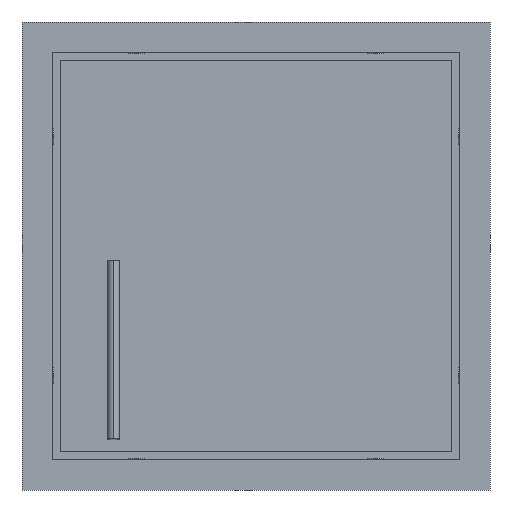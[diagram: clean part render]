
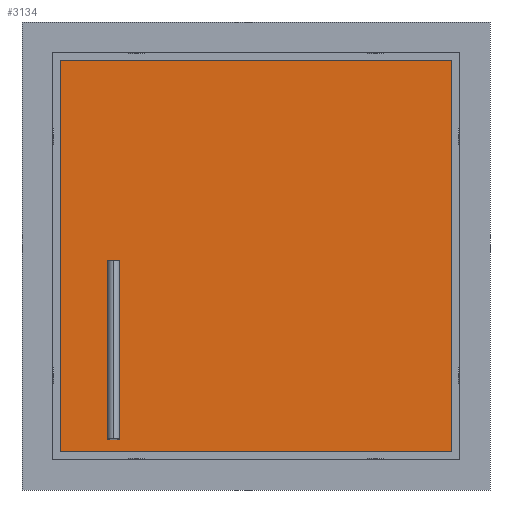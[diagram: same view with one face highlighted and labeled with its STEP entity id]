
A CAD part, front view. The second image highlights one B-rep face of the part: STEP entity #3134.
In plain terms, the highlighted planar face has unit normal (0, -1, 0).
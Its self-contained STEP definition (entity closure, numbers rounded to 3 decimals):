
#2736=DIRECTION('',(0.,0.,-1.));
#2737=VECTOR('',#2736,848.);
#2738=CARTESIAN_POINT('',(424.,78.,415.));
#2739=LINE('',#2738,#2737);
#2744=DIRECTION('',(-1.,0.,0.));
#2745=VECTOR('',#2744,848.);
#2746=CARTESIAN_POINT('',(424.,78.,-433.));
#2747=LINE('',#2746,#2745);
#2752=DIRECTION('',(0.,0.,1.));
#2753=VECTOR('',#2752,848.);
#2754=CARTESIAN_POINT('',(-424.,78.,-433.));
#2755=LINE('',#2754,#2753);
#2760=DIRECTION('',(1.,0.,0.));
#2761=VECTOR('',#2760,848.);
#2762=CARTESIAN_POINT('',(-424.,78.,415.));
#2763=LINE('',#2762,#2761);
#2931=CARTESIAN_POINT('',(424.,78.,415.));
#2932=CARTESIAN_POINT('',(424.,78.,-433.));
#2933=VERTEX_POINT('',#2931);
#2934=VERTEX_POINT('',#2932);
#2935=CARTESIAN_POINT('',(-424.,78.,-433.));
#2936=VERTEX_POINT('',#2935);
#2937=CARTESIAN_POINT('',(-424.,78.,415.));
#2938=VERTEX_POINT('',#2937);
#3120=CARTESIAN_POINT('',(0.,78.,0.));
#3121=DIRECTION('',(0.,1.,0.));
#3122=DIRECTION('',(1.,0.,0.));
#3123=AXIS2_PLACEMENT_3D('',#3120,#3121,#3122);
#3124=PLANE('',#3123);
#3125=ORIENTED_EDGE('',*,*,#3110,.T.);
#3127=ORIENTED_EDGE('',*,*,#3126,.T.);
#3129=ORIENTED_EDGE('',*,*,#3128,.T.);
#3131=ORIENTED_EDGE('',*,*,#3130,.T.);
#3132=EDGE_LOOP('',(#3125,#3127,#3129,#3131));
#3133=FACE_OUTER_BOUND('',#3132,.F.);
#3134=ADVANCED_FACE('',(#3133),#3124,.F.);
#3110=EDGE_CURVE('',#2933,#2934,#2739,.T.);
#3126=EDGE_CURVE('',#2934,#2936,#2747,.T.);
#3128=EDGE_CURVE('',#2936,#2938,#2755,.T.);
#3130=EDGE_CURVE('',#2938,#2933,#2763,.T.);
